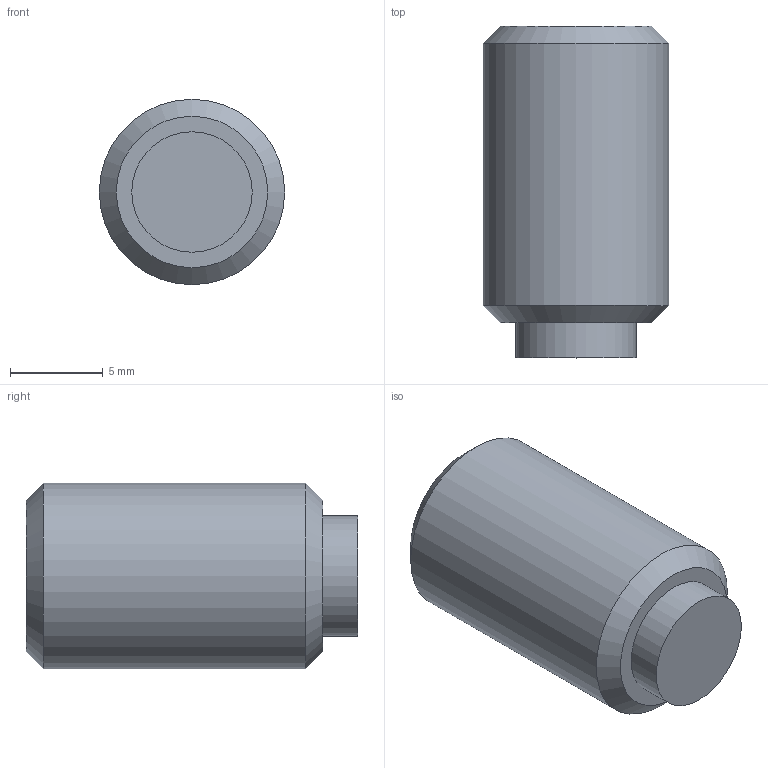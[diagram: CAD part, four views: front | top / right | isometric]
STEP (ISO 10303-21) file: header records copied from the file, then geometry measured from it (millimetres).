
FILE_DESCRIPTION( ( 'STEP AP203' ), '1' );
FILE_NAME( 'C:/Temp/Ganter_Step_05_03_2020/data/3_2/gn913_3/Grub screw GN 913.3-M10-16-KU.stp', '2020-03-13T05:35:39', ( 'License CC BY-ND 4.0' ), ( 'CADENAS' ), ' ', 'PARTsolutions', ' ' );
FILE_SCHEMA( ( 'CONFIG_CONTROL_DESIGN' ) );
Length unit declared in the file: millimetre
Products named in the file (1): _Grub screw GN 913.3-M10-16-KU
Bounding box: 10 x 17.9 x 10 mm (x, y, z)
Volume: 1164.8 mm3; surface area: 766.4 mm2
Topology: 1 solids, 1 shells, 14 faces, 28 edges, 18 vertices
Faces by surface type: plane 10, cylinder 2, cone 2
Full cylindrical faces by diameter (mm): 6.5 x1, 10 x1
Entity records: 386 total; most frequent: DIRECTION 60, CARTESIAN_POINT 57, ORIENTED_EDGE 48, EDGE_CURVE 24, AXIS2_PLACEMENT_3D 21, EDGE_LOOP 20, VERTEX_POINT 18, LINE 18
